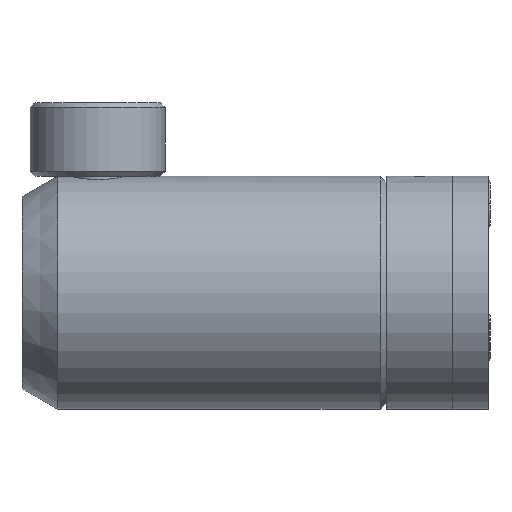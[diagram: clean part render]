
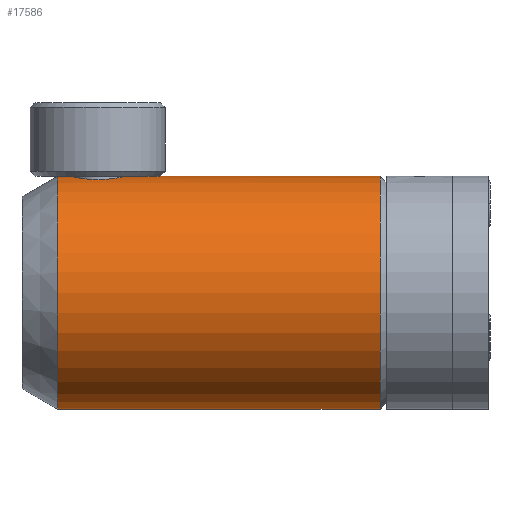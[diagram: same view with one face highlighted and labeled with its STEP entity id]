
A CAD part, left-side view. The second image highlights one B-rep face of the part: STEP entity #17586.
In plain terms, the highlighted cylindrical face has radius 12.497 mm (diameter 24.994 mm), a partial arc.
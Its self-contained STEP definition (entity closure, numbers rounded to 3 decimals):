
#15543=CARTESIAN_POINT('',(-28.909,14.91,
23.27));
#15575=DIRECTION('',(0.,1.,0.));
#15576=VECTOR('',#15575,34.585);
#15577=CARTESIAN_POINT('',(-28.909,-12.357,
-1.723));
#15578=LINE('',#15577,#15576);
#15579=DIRECTION('',(0.,-1.,0.));
#15580=VECTOR('',#15579,1.318);
#15581=CARTESIAN_POINT('',(-28.909,22.228,
23.27));
#15582=LINE('',#15581,#15580);
#15583=CARTESIAN_POINT('',(-28.909,20.91,
23.27));
#15584=CARTESIAN_POINT('',(-29.104,20.91,
23.27));
#15585=CARTESIAN_POINT('',(-29.489,20.872,
23.261));
#15586=CARTESIAN_POINT('',(-30.059,20.701,
23.221));
#15587=CARTESIAN_POINT('',(-30.583,20.422,
23.161));
#15588=CARTESIAN_POINT('',(-31.046,20.042,
23.089));
#15589=CARTESIAN_POINT('',(-31.422,19.583,
23.016));
#15590=CARTESIAN_POINT('',(-31.702,19.056,
22.955));
#15591=CARTESIAN_POINT('',(-31.871,18.489,
22.914));
#15592=CARTESIAN_POINT('',(-31.909,18.105,
22.905));
#15593=CARTESIAN_POINT('',(-31.909,17.91,
22.905));
#15595=CARTESIAN_POINT('',(-31.909,17.91,
22.905));
#15596=CARTESIAN_POINT('',(-31.909,17.714,
22.905));
#15597=CARTESIAN_POINT('',(-31.871,17.33,
22.914));
#15598=CARTESIAN_POINT('',(-31.702,16.762,
22.955));
#15599=CARTESIAN_POINT('',(-31.422,16.236,
23.016));
#15600=CARTESIAN_POINT('',(-31.046,15.777,
23.089));
#15601=CARTESIAN_POINT('',(-30.583,15.397,
23.161));
#15602=CARTESIAN_POINT('',(-30.06,15.118,
23.221));
#15603=CARTESIAN_POINT('',(-29.489,14.947,
23.261));
#15604=CARTESIAN_POINT('',(-29.104,14.91,
23.27));
#15605=CARTESIAN_POINT('',(-28.909,14.91,
23.27));
#15607=DIRECTION('',(0.,-1.,0.));
#15608=VECTOR('',#15607,27.267);
#15609=CARTESIAN_POINT('',(-28.909,14.91,
23.27));
#15610=LINE('',#15609,#15608);
#17244=CARTESIAN_POINT('',(-28.909,-12.357,
10.773));
#17245=DIRECTION('',(0.,-1.,0.));
#17246=DIRECTION('',(0.,0.,1.));
#17247=AXIS2_PLACEMENT_3D('',#17244,#17245,#17246);
#17375=CARTESIAN_POINT('',(-28.909,22.228,
10.773));
#17376=DIRECTION('',(0.,1.,0.));
#17377=DIRECTION('',(0.,0.,-1.));
#17378=AXIS2_PLACEMENT_3D('',#17375,#17376,#17377);
#17417=CARTESIAN_POINT('',(-28.909,22.228,
23.27));
#17418=VERTEX_POINT('',#17417);
#17419=CARTESIAN_POINT('',(-28.909,22.228,
-1.723));
#17420=VERTEX_POINT('',#17419);
#17421=CARTESIAN_POINT('',(-28.909,-12.357,
-1.723));
#17423=VERTEX_POINT('',#17421);
#17427=CARTESIAN_POINT('',(-28.909,-12.357,
23.27));
#17428=VERTEX_POINT('',#17427);
#17441=VERTEX_POINT('',#15543);
#17443=VERTEX_POINT('',#15583);
#17444=VERTEX_POINT('',#15593);
#17568=CARTESIAN_POINT('',(-28.909,26.038,
10.773));
#17569=DIRECTION('',(0.,-1.,0.));
#17570=DIRECTION('',(0.,0.,-1.));
#17571=AXIS2_PLACEMENT_3D('',#17568,#17569,#17570);
#17572=CYLINDRICAL_SURFACE('',#17571,12.497);
#17573=ORIENTED_EDGE('',*,*,#17557,.T.);
#17575=ORIENTED_EDGE('',*,*,#17574,.T.);
#17577=ORIENTED_EDGE('',*,*,#17576,.T.);
#17578=ORIENTED_EDGE('',*,*,#17551,.T.);
#17580=ORIENTED_EDGE('',*,*,#17579,.T.);
#17581=ORIENTED_EDGE('',*,*,#17561,.T.);
#17583=ORIENTED_EDGE('',*,*,#17582,.T.);
#17584=EDGE_LOOP('',(#17573,#17575,#17577,#17578,#17580,#17581,#17583));
#17585=FACE_OUTER_BOUND('',#17584,.F.);
#17586=ADVANCED_FACE('',(#17585),#17572,.T.);
#15594=B_SPLINE_CURVE_WITH_KNOTS('',3,(#15583,#15584,#15585,#15586,#15587,
#15588,#15589,#15590,#15591,#15592,#15593),.UNSPECIFIED.,.F.,.F.,(4,1,1,1,1,1,1,
1,4),(0.,0.125,0.25,0.375,0.5,0.625,0.75,0.875,1.),
.UNSPECIFIED.);
#15606=B_SPLINE_CURVE_WITH_KNOTS('',3,(#15595,#15596,#15597,#15598,#15599,
#15600,#15601,#15602,#15603,#15604,#15605),.UNSPECIFIED.,.F.,.F.,(4,1,1,1,1,1,1,
1,4),(0.,0.125,0.25,0.375,0.5,0.625,0.75,0.875,1.),
.UNSPECIFIED.);
#17248=CIRCLE('',#17247,12.497);
#17379=CIRCLE('',#17378,12.497);
#17551=EDGE_CURVE('',#17441,#17428,#15610,.T.);
#17557=EDGE_CURVE('',#17418,#17443,#15582,.T.);
#17561=EDGE_CURVE('',#17423,#17420,#15578,.T.);
#17574=EDGE_CURVE('',#17443,#17444,#15594,.T.);
#17576=EDGE_CURVE('',#17444,#17441,#15606,.T.);
#17579=EDGE_CURVE('',#17428,#17423,#17248,.T.);
#17582=EDGE_CURVE('',#17420,#17418,#17379,.T.);
